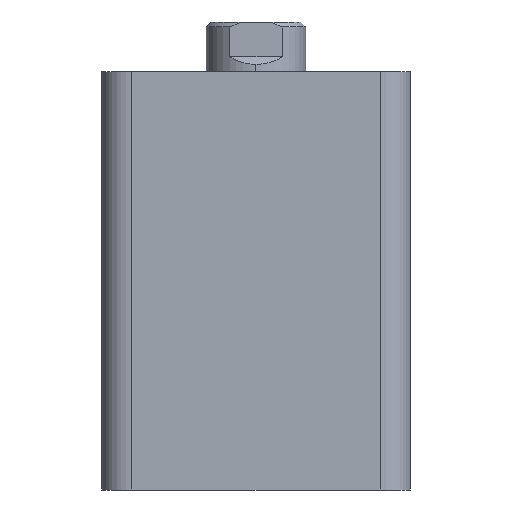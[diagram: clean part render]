
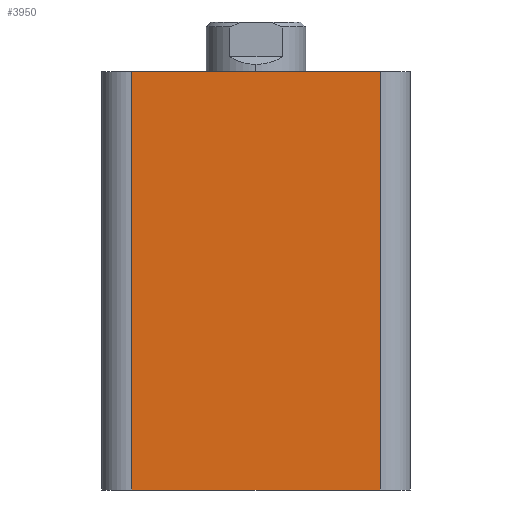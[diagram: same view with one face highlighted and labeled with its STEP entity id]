
A CAD part, left-side view. The second image highlights one B-rep face of the part: STEP entity #3950.
In plain terms, the highlighted planar face has unit normal (-1, 0, 0).
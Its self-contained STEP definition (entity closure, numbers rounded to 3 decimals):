
#189 = LINE ( 'NONE', #2110, #5081 ) ;
#199 = AXIS2_PLACEMENT_3D ( 'NONE', #789, #795, #796 ) ;
#509 = CARTESIAN_POINT ( 'NONE',  ( -31., -25., 0. ) ) ;
#510 = CARTESIAN_POINT ( 'NONE',  ( -31., 25., 0. ) ) ;
#532 = CARTESIAN_POINT ( 'NONE',  ( -31., -25., 84. ) ) ;
#552 = CARTESIAN_POINT ( 'NONE',  ( -31., 25., 84. ) ) ;
#789 = CARTESIAN_POINT ( 'NONE',  ( -31., 31., 84. ) ) ;
#793 = PLANE ( 'NONE',  #199 ) ;
#795 = DIRECTION ( 'NONE',  ( 1., 0., 0. ) ) ;
#796 = DIRECTION ( 'NONE',  ( 0., 0., -1. ) ) ;
#2105 = DIRECTION ( 'NONE',  ( 0., -1., 0. ) ) ;
#2110 = CARTESIAN_POINT ( 'NONE',  ( -31., 31., 84. ) ) ;
#2406 = EDGE_CURVE ( 'NONE', #4547, #4527, #189, .T. ) ;
#2486 = EDGE_CURVE ( 'NONE', #4505, #4504, #3403, .T. ) ;
#2532 = EDGE_CURVE ( 'NONE', #4504, #4527, #3474, .T. ) ;
#2534 = EDGE_CURVE ( 'NONE', #4547, #4505, #3478, .T. ) ;
#2640 = ORIENTED_EDGE ( 'NONE', *, *, #2534, .T. ) ;
#2682 = ORIENTED_EDGE ( 'NONE', *, *, #2406, .F. ) ;
#2777 = ORIENTED_EDGE ( 'NONE', *, *, #2486, .T. ) ;
#2962 = ORIENTED_EDGE ( 'NONE', *, *, #2532, .T. ) ;
#3403 = LINE ( 'NONE', #4779, #3410 ) ;
#3410 = VECTOR ( 'NONE', #4775, 1000. ) ;
#3474 = LINE ( 'NONE', #4911, #3477 ) ;
#3477 = VECTOR ( 'NONE', #4912, 1000. ) ;
#3478 = LINE ( 'NONE', #4906, #3480 ) ;
#3480 = VECTOR ( 'NONE', #4907, 1000. ) ;
#3626 = FACE_OUTER_BOUND ( 'NONE', #4292, .T. ) ;
#3950 = ADVANCED_FACE ( 'NONE', ( #3626 ), #793, .F. ) ;
#4292 = EDGE_LOOP ( 'NONE', ( #2777, #2962, #2682, #2640 ) ) ;
#4504 = VERTEX_POINT ( 'NONE', #509 ) ;
#4505 = VERTEX_POINT ( 'NONE', #510 ) ;
#4527 = VERTEX_POINT ( 'NONE', #532 ) ;
#4547 = VERTEX_POINT ( 'NONE', #552 ) ;
#4775 = DIRECTION ( 'NONE',  ( 0., -1., 0. ) ) ;
#4779 = CARTESIAN_POINT ( 'NONE',  ( -31., 31., 0. ) ) ;
#4906 = CARTESIAN_POINT ( 'NONE',  ( -31., 25., 84. ) ) ;
#4907 = DIRECTION ( 'NONE',  ( 0., 0., -1. ) ) ;
#4911 = CARTESIAN_POINT ( 'NONE',  ( -31., -25., 84. ) ) ;
#4912 = DIRECTION ( 'NONE',  ( 0., 0., 1. ) ) ;
#5081 = VECTOR ( 'NONE', #2105, 1000. ) ;
